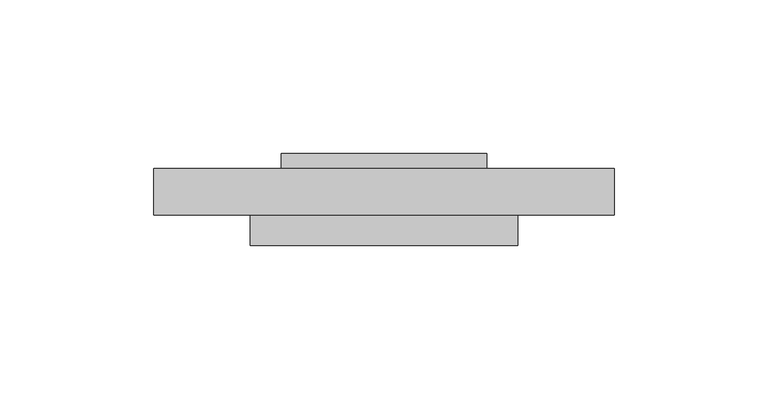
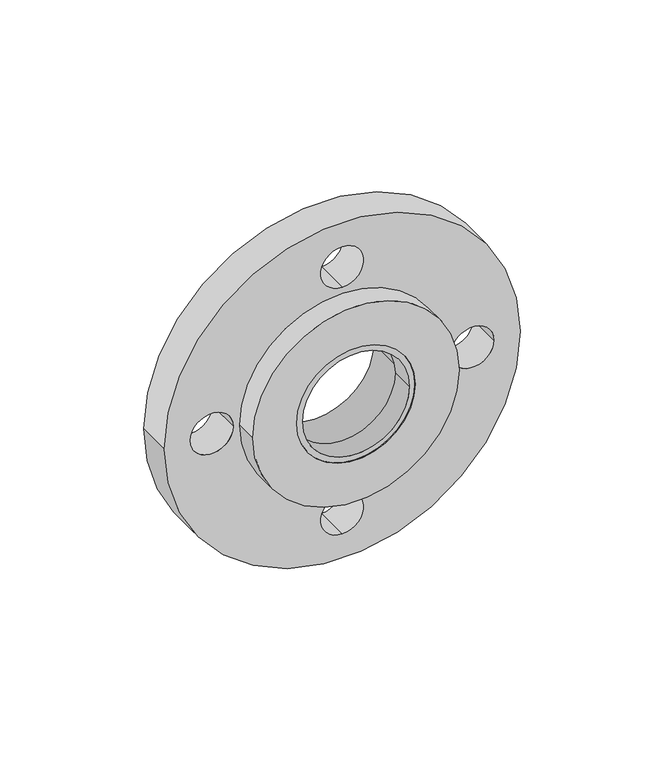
"""IFC4 building model written with IfcOpenShell, lengths in millimetres: pipe fitting geometry, EGB_VASEN_ PPR_Valona WXR140 : Valona WXR140 + Brida WXR900."""

from ifc_helpers import new_model, si_unit, point, frame, frame_2d, origin, origin_2d, place, context, project, spatial, circle_curve, trimmed, segment, composite_curve, outline, extrude, source, transform, mapped, element, save


def pipe_fitting_d292dc65(model_context):
    return source(origin(), model_context, "Body", "SweptSolid", [
        extrude(outline(composite_curve([segment(trimmed(circle_curve(origin_2d(), 75.0), [point((0.0, -75.0))], [point((0.0, 75.0))], False, "CARTESIAN"), True, "CONTINUOUS"), segment(trimmed(circle_curve(origin_2d(), 75.0), [point((0.0, 75.0))], [point((0.0, -75.0))], False, "CARTESIAN"), True, "CONTINUOUS")], self_intersect=False), holes=[composite_curve([segment(trimmed(circle_curve(origin_2d(), 32.5), [point((0.0, -32.5))], [point((0.0, 32.5))], True, "CARTESIAN"), True, "CONTINUOUS"), segment(trimmed(circle_curve(origin_2d(), 32.5), [point((0.0, 32.5))], [point((0.0, -32.5))], True, "CARTESIAN"), True, "CONTINUOUS")], self_intersect=False), composite_curve([segment(trimmed(circle_curve(frame_2d((0.0, -55.0)), 9.0), [point((0.0, -46.0))], [point((0.0, -64.0))], True, "CARTESIAN"), True, "CONTINUOUS"), segment(trimmed(circle_curve(frame_2d((0.0, -55.0)), 9.0), [point((0.0, -64.0))], [point((0.0, -46.0))], True, "CARTESIAN"), True, "CONTINUOUS")], self_intersect=False), composite_curve([segment(trimmed(circle_curve(frame_2d((55.0, 0.0)), 9.0), [point((46.0, 0.0))], [point((64.0, 0.0))], True, "CARTESIAN"), True, "CONTINUOUS"), segment(trimmed(circle_curve(frame_2d((55.0, 0.0)), 9.0), [point((64.0, 0.0))], [point((46.0, 0.0))], True, "CARTESIAN"), True, "CONTINUOUS")], self_intersect=False), composite_curve([segment(trimmed(circle_curve(frame_2d((-55.0, 0.0)), 9.0), [point((-46.0, 0.0))], [point((-64.0, 0.0))], True, "CARTESIAN"), True, "CONTINUOUS"), segment(trimmed(circle_curve(frame_2d((-55.0, 0.0)), 9.0), [point((-64.0, 0.0))], [point((-46.0, 0.0))], True, "CARTESIAN"), True, "CONTINUOUS")], self_intersect=False), composite_curve([segment(trimmed(circle_curve(frame_2d((0.0, 55.0)), 9.0), [point((0.0, 46.0))], [point((0.0, 64.0))], True, "CARTESIAN"), True, "CONTINUOUS"), segment(trimmed(circle_curve(frame_2d((0.0, 55.0)), 9.0), [point((0.0, 64.0))], [point((0.0, 46.0))], True, "CARTESIAN"), True, "CONTINUOUS")], self_intersect=False)]), frame((0.0, 0.0, 0.0), z_axis=(0.0, 1.0, 0.0), x_axis=(0.0, 0.0, 1.0)), (0.0, 0.0, 1.0), 15.0),
        extrude(outline(composite_curve([segment(trimmed(circle_curve(origin_2d(), 33.5), [point((0.0, -33.5))], [point((0.0, 33.5))], False, "CARTESIAN"), True, "CONTINUOUS"), segment(trimmed(circle_curve(origin_2d(), 33.5), [point((0.0, 33.5))], [point((0.0, -33.5))], False, "CARTESIAN"), True, "CONTINUOUS")], self_intersect=False), holes=[composite_curve([segment(trimmed(circle_curve(origin_2d(), 25.0), [point((0.0, -25.0))], [point((0.0, 25.0))], True, "CARTESIAN"), True, "CONTINUOUS"), segment(trimmed(circle_curve(origin_2d(), 25.0), [point((0.0, 25.0))], [point((0.0, -25.0))], True, "CARTESIAN"), True, "CONTINUOUS")], self_intersect=False)]), frame((0.0, 0.0, 0.0), z_axis=(0.0, 1.0, 0.0), x_axis=(0.0, 0.0, 1.0)), (0.0, 0.0, 1.0), 20.0),
        extrude(outline(composite_curve([segment(trimmed(circle_curve(origin_2d(), 43.5), [point((0.0, -43.5))], [point((0.0, 43.5))], False, "CARTESIAN"), True, "CONTINUOUS"), segment(trimmed(circle_curve(origin_2d(), 43.5), [point((0.0, 43.5))], [point((0.0, -43.5))], False, "CARTESIAN"), True, "CONTINUOUS")], self_intersect=False), holes=[composite_curve([segment(trimmed(circle_curve(origin_2d(), 25.0), [point((0.0, -25.0))], [point((0.0, 25.0))], True, "CARTESIAN"), True, "CONTINUOUS"), segment(trimmed(circle_curve(origin_2d(), 25.0), [point((0.0, 25.0))], [point((0.0, -25.0))], True, "CARTESIAN"), True, "CONTINUOUS")], self_intersect=False)]), frame((0.0, -10.0, 0.0), z_axis=(0.0, 1.0, 0.0), x_axis=(0.0, 0.0, 1.0)), (0.0, 0.0, 1.0), 10.0),
        extrude(outline(composite_curve([segment(trimmed(circle_curve(origin_2d(), 25.0), [point((0.0, -25.0))], [point((0.0, 25.0))], False, "CARTESIAN"), True, "CONTINUOUS"), segment(trimmed(circle_curve(origin_2d(), 25.0), [point((0.0, 25.0))], [point((0.0, -25.0))], False, "CARTESIAN"), True, "CONTINUOUS")], self_intersect=False), holes=[composite_curve([segment(trimmed(circle_curve(origin_2d(), 22.5), [point((0.0, -22.5))], [point((0.0, 22.5))], True, "CARTESIAN"), True, "CONTINUOUS"), segment(trimmed(circle_curve(origin_2d(), 22.5), [point((0.0, 22.5))], [point((0.0, -22.5))], True, "CARTESIAN"), True, "CONTINUOUS")], self_intersect=False)]), frame((0.0, -10.0, 0.0), z_axis=(0.0, 1.0, 0.0), x_axis=(0.0, 0.0, 1.0)), (0.0, 0.0, 1.0), 10.0),
    ])


if __name__ == "__main__":
    model = new_model("IFC4")
    model_context = context("Model", 3, world=origin())
    ifc_project = project(units=[si_unit("LENGTHUNIT", "METRE", prefix="MILLI")], contexts=[model_context])
    site = spatial("IfcSite", under=ifc_project)
    building = spatial("IfcBuilding", under=site)
    placement = place(None, origin())
    pipe_fitting_shape = pipe_fitting_d292dc65(model_context)
    element("IfcPipeFitting", 1, ObjectType="EGB_VASEN_ PPR_Valona WXR140 : Valona WXR140 + Brida WXR900", at=placement, inside=building, context=model_context, shape_type="MappedRepresentation", body=[
        mapped(pipe_fitting_shape, transform((0.0, 0.0, 0.0), x_axis=(1.0, 0.0, 0.0), y_axis=(0.0, 1.0, 0.0), z_axis=(0.0, 0.0, 1.0))),
    ])
    save(model, "model.ifc")
